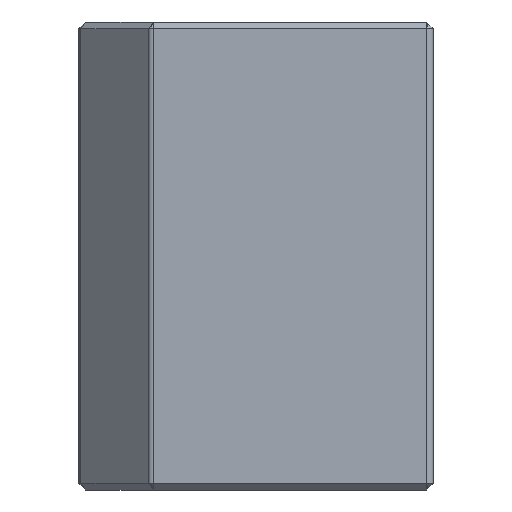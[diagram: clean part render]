
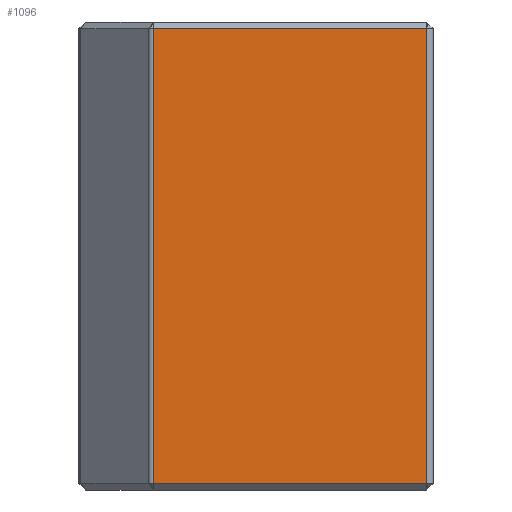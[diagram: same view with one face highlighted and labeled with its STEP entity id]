
A CAD part, left-side view. The second image highlights one B-rep face of the part: STEP entity #1096.
In plain terms, the highlighted planar face has unit normal (-1, 0, 0).
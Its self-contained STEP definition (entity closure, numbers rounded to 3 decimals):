
#70=PLANE('',#1227);
#139=FACE_OUTER_BOUND('',#218,.T.);
#218=EDGE_LOOP('',(#988,#989,#990,#991));
#249=LINE('',#1749,#358);
#318=LINE('',#1920,#427);
#327=LINE('',#1950,#436);
#328=LINE('',#1952,#437);
#358=VECTOR('',#1312,10.);
#427=VECTOR('',#1499,10.);
#436=VECTOR('',#1546,10.);
#437=VECTOR('',#1549,10.);
#510=VERTEX_POINT('',#1745);
#511=VERTEX_POINT('',#1747);
#553=VERTEX_POINT('',#1916);
#554=VERTEX_POINT('',#1918);
#601=EDGE_CURVE('',#511,#510,#249,.T.);
#689=EDGE_CURVE('',#554,#553,#318,.T.);
#702=EDGE_CURVE('',#553,#511,#327,.T.);
#703=EDGE_CURVE('',#510,#554,#328,.T.);
#988=ORIENTED_EDGE('',*,*,#601,.F.);
#989=ORIENTED_EDGE('',*,*,#702,.F.);
#990=ORIENTED_EDGE('',*,*,#689,.F.);
#991=ORIENTED_EDGE('',*,*,#703,.F.);
#1096=ADVANCED_FACE('',(#139),#70,.T.);
#1227=AXIS2_PLACEMENT_3D('',#1951,#1547,#1548);
#1312=DIRECTION('',(0.,1.,0.));
#1499=DIRECTION('',(0.,-1.,0.));
#1546=DIRECTION('',(0.,0.,-1.));
#1547=DIRECTION('center_axis',(-1.,0.,0.));
#1548=DIRECTION('ref_axis',(0.,-1.,0.));
#1549=DIRECTION('',(0.,0.,1.));
#1745=CARTESIAN_POINT('',(-20.5,11.836,-34.));
#1747=CARTESIAN_POINT('',(-20.5,-29.,-34.));
#1749=CARTESIAN_POINT('',(-20.5,4.375,-34.));
#1916=CARTESIAN_POINT('',(-20.5,-29.,34.));
#1918=CARTESIAN_POINT('',(-20.5,11.836,34.));
#1920=CARTESIAN_POINT('',(-20.5,4.375,34.));
#1950=CARTESIAN_POINT('',(-20.5,-29.,0.));
#1951=CARTESIAN_POINT('Origin',(-20.5,12.25,0.));
#1952=CARTESIAN_POINT('',(-20.5,11.836,0.));
